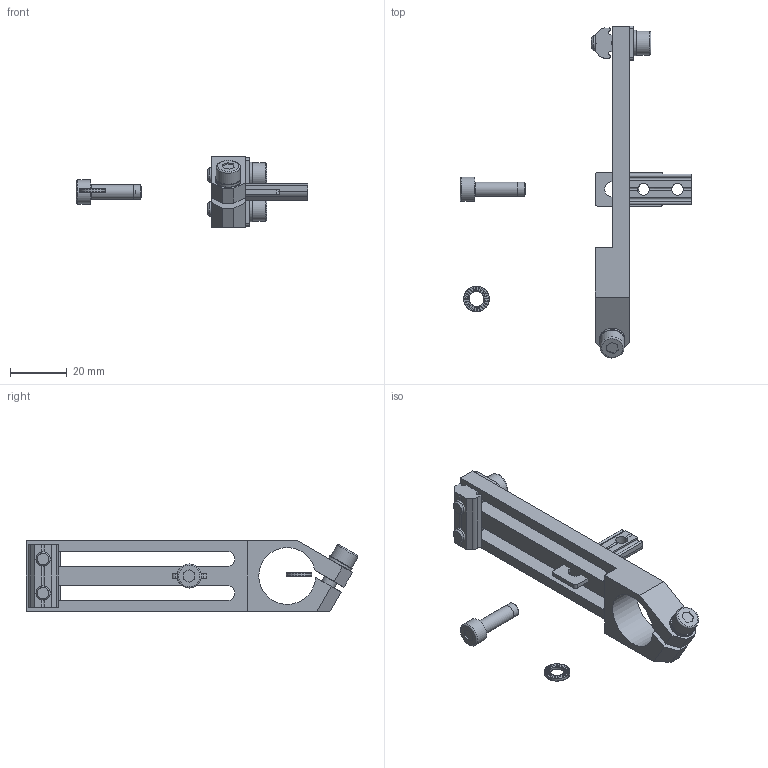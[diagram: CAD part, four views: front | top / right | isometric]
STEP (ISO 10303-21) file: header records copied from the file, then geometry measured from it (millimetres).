
FILE_DESCRIPTION( ( 'STEP AP214' ), '1' );
FILE_NAME( 'C:/Users/Segreteria/Desktop/CA.WSL.2060.U.X.stp', '2014-07-10T10:21:12', ( ' ' ), ( ' ' ), 'XStep 1.0', ' ', ' ' );
FILE_SCHEMA( ( 'CONFIG_CONTROL_DESIGN) ( )' ) );
Length unit declared in the file: metre
Products named in the file (9): Assem1; Assem2; R.5.SCH; V-tcei M  5 x 18; WSL.2060.U; R.05.12; CA.GWP.5.12; V-tcei M  5 x 16
Bounding box: 81.5 x 116.95 x 25 mm (x, y, z)
Volume: 42729.4 mm3; surface area: 32319.8 mm2
Topology: 14 solids, 19 shells, 1234 faces, 3576 edges, 2371 vertices
Faces by surface type: plane 1128, cylinder 85, torus 14, cone 7
Full cylindrical faces by diameter (mm): 4.134 x7, 5 x7, 5.3 x9, 5.5 x3, 8.5 x7, 9 x5
Entity records: 11554 total; most frequent: CARTESIAN_POINT 1786, DIRECTION 1720, ORIENTED_EDGE 1666, EDGE_CURVE 833, AXIS2_PLACEMENT_3D 579, VERTEX_POINT 565, LINE 562, VECTOR 562
